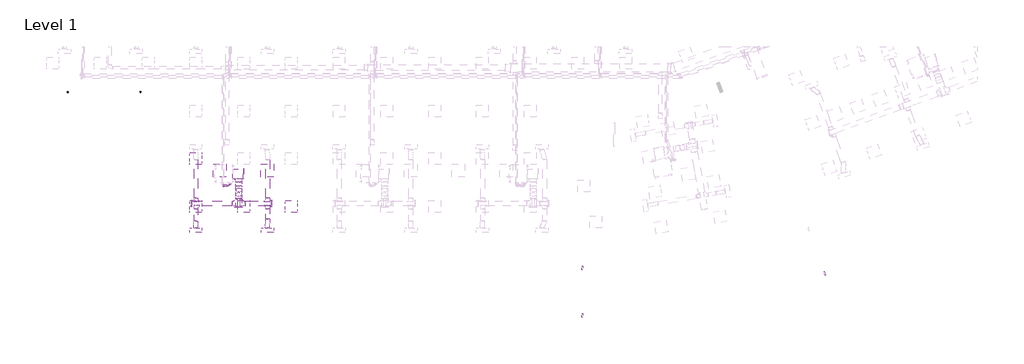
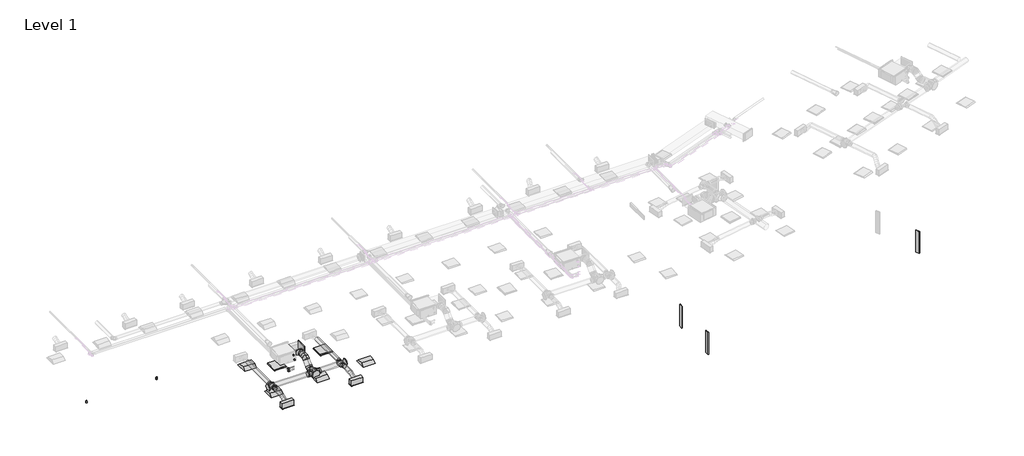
# One storey, part 1 of 30: 13 duct fittings, 12 duct segments, 7 light fixtures, 4 air terminals, 4 pipe fittings, 4 pipe segments, 2 proxies.
"""IFC4 building model written with IfcOpenShell, lengths in millimetres."""

from ifc_helpers import new_model, si_unit, point, frame, frame_2d, origin, place, context, project, spatial, polyline, circle_curve, ellipse_curve, trimmed, segment, composite_curve, outline, extrude, transform, mapped, element, save
from ifc_brep_helpers import plane_surface, cylinder_surface, advanced_brep
from components import return_grille_rectangular_hosted_standard_7b12617c, supply_diffuser_with_plenum_linear_slot_hosted_2b730595, duplex_receptacle_standard_367a9a66, dw144_rectangular_blank_end_standard_8fde7d16, dw144_round_blank_end_standard_f82b0856, dw144_round_blank_end_standard_9aa061e7, dw144_round_segmented_bend_slip_joint_standard_8b80c5ae, dw144_round_shoe_branch_slip_joint1_standard_2_15a2edd8, dw144_round_shoe_branch_slip_joint1_standard_2_559552f4, dw144_round_shoe_branch_slip_joint1_standard_2_7ba9e4ed, dw144_round_shoe_branch_slip_joint1_standard_2_67b64720, plain_recessed_lighting_fixture_2x2_277_de26a1e5, light_fixture_64c2163c, elbow_threaded_gmi_standard_b4aa7741, socket_reducing_threaded_gmi_standard_0a4076b8

model = new_model("IFC4")

# Units and contexts
model_context = context("Model", 3, world=origin())
ifc_project = project(units=[si_unit("LENGTHUNIT", "METRE", prefix="MILLI")], contexts=[model_context])

# Site, building, storey
site = spatial("IfcSite", under=ifc_project)
building = spatial("IfcBuilding", under=site)
storey = spatial("IfcBuildingStorey", under=building, Name="Level 1", Elevation=3900.0)

# Air terminals
placement = place(None, origin())
return_grille_rectangular_hosted_standard_shape = return_grille_rectangular_hosted_standard_7b12617c(model_context)
element("IfcAirTerminal", 1, ObjectType="Return Grille - Rectangular - Hosted : Standard", at=placement, inside=storey, context=model_context, shape_type="MappedRepresentation", body=[
    mapped(return_grille_rectangular_hosted_standard_shape, transform((10362.2000027, 3963.2000004, 6700.0), x_axis=(1.0, 0.0, 0.0), y_axis=(0.0, -1.0, 0.0), z_axis=(0.0, 0.0, -1.0))),
])
element("IfcAirTerminal", 2, ObjectType="Return Grille - Rectangular - Hosted : Standard", at=placement, inside=storey, context=model_context, shape_type="MappedRepresentation", body=[
    mapped(return_grille_rectangular_hosted_standard_shape, transform((12762.2000027, 3963.2000004, 6700.0), x_axis=(1.0, 0.0, 0.0), y_axis=(0.0, -1.0, 0.0), z_axis=(0.0, 0.0, -1.0))),
])
supply_diffuser_with_plenum_linear_slot_hosted_shape = supply_diffuser_with_plenum_linear_slot_hosted_2b730595(model_context)
element("IfcAirTerminal", 3, ObjectType="Supply Diffuser with Plenum - Linear Slot - Hosted : 24\" x 8\"-200 In Inlet  4-Slot", at=placement, inside=storey, context=model_context, shape_type="MappedRepresentation", body=[
    mapped(supply_diffuser_with_plenum_linear_slot_hosted_shape, transform((9162.2000027, 963.2000004, 6700.0), x_axis=(1.0, 0.0, 0.0), y_axis=(0.0, -1.0, 0.0), z_axis=(0.0, 0.0, -1.0))),
])
element("IfcAirTerminal", 4, ObjectType="Supply Diffuser with Plenum - Linear Slot - Hosted : 24\" x 8\"-200 In Inlet  4-Slot", at=placement, inside=storey, context=model_context, shape_type="MappedRepresentation", body=[
    mapped(supply_diffuser_with_plenum_linear_slot_hosted_shape, transform((12762.2000027, 963.2000004, 6700.0), x_axis=(1.0, 0.0, 0.0), y_axis=(0.0, -1.0, 0.0), z_axis=(0.0, 0.0, -1.0))),
])

# Proxies
duplex_receptacle_standard_shape = duplex_receptacle_standard_367a9a66(model_context)
element("IfcBuildingElementProxy", 5, Name="Duplex Receptacle : Standard", ObjectType="Duplex Receptacle : Standard", at=placement, inside=storey, context=model_context, shape_type="MappedRepresentation", body=[
    mapped(duplex_receptacle_standard_shape, transform((6385.8000023, 7938.2000004, 4966.8), x_axis=(-1.0, 0.0, 0.0), y_axis=(0.0, 0.0, 1.0), z_axis=(0.0, 1.0, 0.0))),
])
element("IfcBuildingElementProxy", 6, Name="Duplex Receptacle : Standard", ObjectType="Duplex Receptacle : Standard", at=placement, inside=storey, context=model_context, shape_type="MappedRepresentation", body=[
    mapped(duplex_receptacle_standard_shape, transform((2728.2000023, 7938.2000004, 4966.8), x_axis=(-1.0, 0.0, 0.0), y_axis=(0.0, 0.0, 1.0), z_axis=(0.0, 1.0, 0.0))),
])

# Duct fittings
dw144_rectangular_blank_end_standard_shape = dw144_rectangular_blank_end_standard_8fde7d16(model_context)
element("IfcDuctFitting", 7, ObjectType="DW144 Rectangular Blank End : Standard", at=placement, inside=storey, context=model_context, shape_type="MappedRepresentation", body=[
    mapped(dw144_rectangular_blank_end_standard_shape, transform((11546.2561025, 3806.0000004, 7376.3911538), x_axis=(1.0, 0.0, 0.0), y_axis=(0.0, 1.0, 0.0), z_axis=(0.0, 0.0, 1.0))),
])
dw144_round_blank_end_standard_shape = dw144_round_blank_end_standard_f82b0856(model_context)
element("IfcDuctFitting", 8, ObjectType="DW144 Round Blank End : Standard", at=placement, inside=storey, context=model_context, shape_type="MappedRepresentation", body=[
    mapped(dw144_round_blank_end_standard_shape, transform((11331.4561025, 2142.9916128, 6972.2088531), x_axis=(0.0, -1.0, 0.0), y_axis=(1.0, 0.0, 0.0), z_axis=(0.0, 0.0, 1.0))),
])
dw144_round_blank_end_standard_2_shape = dw144_round_blank_end_standard_9aa061e7(model_context)
element("IfcDuctFitting", 9, ObjectType="DW144 Round Blank End : Standard", at=placement, inside=storey, context=model_context, shape_type="MappedRepresentation", body=[
    mapped(dw144_round_blank_end_standard_2_shape, transform((12961.4561025, 2306.5018192, 6972.2088531), x_axis=(1.0, 0.0, 0.0), y_axis=(0.0, 1.0, 0.0), z_axis=(0.0, 0.0, 1.0))),
])
element("IfcDuctFitting", 10, ObjectType="DW144 Round Blank End : Standard", at=placement, inside=storey, context=model_context, shape_type="MappedRepresentation", body=[
    mapped(dw144_round_blank_end_standard_2_shape, transform((8961.4561025, 2306.5018192, 6972.2088531), x_axis=(-1.0, 0.0, 0.0), y_axis=(0.0, -1.0, 0.0), z_axis=(0.0, 0.0, 1.0))),
])
dw144_round_segmented_bend_slip_joint_standard_shape = dw144_round_segmented_bend_slip_joint_standard_8b80c5ae(model_context)
element("IfcDuctFitting", 11, ObjectType="DW144 Round Segmented Bend - Slip Joint : Standard", at=placement, inside=storey, context=model_context, shape_type="MappedRepresentation", body=[
    mapped(dw144_round_segmented_bend_slip_joint_standard_shape, transform((11331.4561025, 2678.6338536, 6972.2088531), x_axis=(0.0, -0.7071067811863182, -0.7071067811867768), y_axis=(0.0, 0.7071067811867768, -0.7071067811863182), z_axis=(1.0, 0.0, 0.0))),
])
element("IfcDuctFitting", 12, ObjectType="DW144 Round Segmented Bend - Slip Joint : Standard", at=placement, inside=storey, context=model_context, shape_type="MappedRepresentation", body=[
    mapped(dw144_round_segmented_bend_slip_joint_standard_shape, transform((11331.4561025, 3076.0000004, 7369.575), x_axis=(0.0, -1.0, 0.0), y_axis=(0.0, 0.0, 1.0), z_axis=(-1.0, 0.0, 0.0))),
])
dw144_round_shoe_branch_slip_joint1_standard_2_shape = dw144_round_shoe_branch_slip_joint1_standard_2_15a2edd8(model_context)
element("IfcDuctFitting", 13, ObjectType="DW144 Round Shoe Branch - Slip Joint1 : Standard 2", at=placement, inside=storey, context=model_context, shape_type="MappedRepresentation", body=[
    mapped(dw144_round_shoe_branch_slip_joint1_standard_2_shape, transform((9173.9000022, 2181.5018192, 6972.2088531), x_axis=(0.0, -1.0, 0.0), y_axis=(-1.0, 0.0, 0.0), z_axis=(0.0, 0.0, -1.0))),
])
element("IfcDuctFitting", 14, ObjectType="DW144 Round Shoe Branch - Slip Joint1 : Standard 2", at=placement, inside=storey, context=model_context, shape_type="MappedRepresentation", body=[
    mapped(dw144_round_shoe_branch_slip_joint1_standard_2_shape, transform((9173.9000022, 2431.5018192, 6972.2088531), x_axis=(0.0, 1.0, 0.0), y_axis=(-1.0, 0.0, 0.0), z_axis=(0.0, 0.0, 1.0))),
])
dw144_round_shoe_branch_slip_joint1_standard_2_2_shape = dw144_round_shoe_branch_slip_joint1_standard_2_559552f4(model_context)
element("IfcDuctFitting", 15, ObjectType="DW144 Round Shoe Branch - Slip Joint1 : Standard 2", at=placement, inside=storey, context=model_context, shape_type="MappedRepresentation", body=[
    mapped(dw144_round_shoe_branch_slip_joint1_standard_2_2_shape, transform((12773.9000022, 2181.5018192, 6972.2088531), x_axis=(0.0, -1.0, 0.0), y_axis=(-1.0, 0.0, 0.0), z_axis=(0.0, 0.0, -1.0))),
])
element("IfcDuctFitting", 16, ObjectType="DW144 Round Shoe Branch - Slip Joint1 : Standard 2", at=placement, inside=storey, context=model_context, shape_type="MappedRepresentation", body=[
    mapped(dw144_round_shoe_branch_slip_joint1_standard_2_2_shape, transform((12773.9000022, 2431.5018192, 6972.2088531), x_axis=(0.0, 1.0, 0.0), y_axis=(-1.0, 0.0, 0.0), z_axis=(0.0, 0.0, 1.0))),
])
dw144_round_shoe_branch_slip_joint1_standard_2_3_shape = dw144_round_shoe_branch_slip_joint1_standard_2_7ba9e4ed(model_context)
element("IfcDuctFitting", 17, ObjectType="DW144 Round Shoe Branch - Slip Joint1 : Standard 2", at=placement, inside=storey, context=model_context, shape_type="MappedRepresentation", body=[
    mapped(dw144_round_shoe_branch_slip_joint1_standard_2_3_shape, transform((11331.4561025, 3556.0000004, 7369.575), x_axis=(0.0, -1.0, 0.0), y_axis=(-1.0, 0.0, 0.0), z_axis=(0.0, 0.0, -1.0))),
])
dw144_round_shoe_branch_slip_joint1_standard_2_4_shape = dw144_round_shoe_branch_slip_joint1_standard_2_67b64720(model_context)
element("IfcDuctFitting", 18, ObjectType="DW144 Round Shoe Branch - Slip Joint1 : Standard 2", at=placement, inside=storey, context=model_context, shape_type="MappedRepresentation", body=[
    mapped(dw144_round_shoe_branch_slip_joint1_standard_2_4_shape, transform((11481.4561025, 2306.5018192, 6972.2088531), x_axis=(1.0, 0.0, 0.0), y_axis=(0.0, -1.0, 0.0), z_axis=(0.0, 0.0, -1.0))),
])
element("IfcDuctFitting", 19, ObjectType="DW144 Round Shoe Branch - Slip Joint1 : Standard 2", at=placement, inside=storey, context=model_context, shape_type="MappedRepresentation", body=[
    mapped(dw144_round_shoe_branch_slip_joint1_standard_2_4_shape, transform((11181.4561025, 2306.5018192, 6972.2088531), x_axis=(-1.0, 0.0, 0.0), y_axis=(0.0, -1.0, 0.0), z_axis=(0.0, 0.0, 1.0))),
])

# Duct segments
element("IfcDuctSegment", 20, ObjectType="DW144 Flanged Med Radius Bend / Shoe Branch", at=placement, inside=storey, context=model_context, shape_type="SweptSolid", body=[
    extrude(outline(polyline([(11026.6561025, 3556.0000004), (11026.6561025, 4056.0000004), (11546.2561025, 4056.0000004), (11546.2561025, 3556.0000004), (11026.6561025, 3556.0000004)])), frame((0.0, 0.0, 7201.3911538), z_axis=(0.0, 0.0, 1.0), x_axis=(1.0, 0.0, 0.0)), (0.0, 0.0, 1.0), 350.0),
])
element("IfcDuctSegment", 21, ObjectType="DW144 Segmented Bend / Shoe Branch", at=placement, inside=storey, context=model_context, shape_type="SweptSolid", body=[
    extrude(outline(composite_curve([segment(trimmed(circle_curve(frame_2d((7369.575, 11331.4561025)), 150.0), [point((7369.575, 11181.4561025))], [point((7219.575, 11331.4561025))], False, "CARTESIAN"), True, "CONTINUOUS"), segment(trimmed(circle_curve(frame_2d((7369.575, 11331.4561025)), 150.0), [point((7219.575, 11331.4561025))], [point((7369.575, 11481.4561025))], False, "CARTESIAN"), True, "CONTINUOUS"), segment(trimmed(circle_curve(frame_2d((7369.575, 11331.4561025)), 150.0), [point((7369.575, 11481.4561025))], [point((7519.575, 11331.4561025))], False, "CARTESIAN"), True, "CONTINUOUS"), segment(trimmed(circle_curve(frame_2d((7369.575, 11331.4561025)), 150.0), [point((7519.575, 11331.4561025))], [point((7369.575, 11181.4561025))], False, "CARTESIAN"), True, "CONTINUOUS")], self_intersect=False)), frame((0.0, 3200.2640691, 0.0), z_axis=(0.0, 1.0, 0.0), x_axis=(0.0, 0.0, 1.0)), (0.0, 0.0, 1.0), 180.7359313),
])
element("IfcDuctSegment", 22, ObjectType="DW144 Segmented Bend / Shoe Branch", at=placement, inside=storey, context=model_context, shape_type="SweptSolid", body=[
    extrude(outline(composite_curve([segment(trimmed(circle_curve(frame_2d((6972.2088531, 11331.4561025)), 150.0), [point((6972.2088531, 11181.4561025))], [point((6822.2088531, 11331.4561025))], False, "CARTESIAN"), True, "CONTINUOUS"), segment(trimmed(circle_curve(frame_2d((6972.2088531, 11331.4561025)), 150.0), [point((6822.2088531, 11331.4561025))], [point((6972.2088531, 11481.4561025))], False, "CARTESIAN"), True, "CONTINUOUS"), segment(trimmed(circle_curve(frame_2d((6972.2088531, 11331.4561025)), 150.0), [point((6972.2088531, 11481.4561025))], [point((7122.2088531, 11331.4561025))], False, "CARTESIAN"), True, "CONTINUOUS"), segment(trimmed(circle_curve(frame_2d((6972.2088531, 11331.4561025)), 150.0), [point((7122.2088531, 11331.4561025))], [point((6972.2088531, 11181.4561025))], False, "CARTESIAN"), True, "CONTINUOUS")], self_intersect=False)), frame((0.0, 2142.9916128, 0.0), z_axis=(0.0, 1.0, 0.0), x_axis=(0.0, 0.0, 1.0)), (0.0, 0.0, 1.0), 411.3781721),
])
element("IfcDuctSegment", 23, ObjectType="DW144 Segmented Bend / Shoe Branch", at=placement, inside=storey, context=model_context, shape_type="SweptSolid", body=[
    extrude(outline(composite_curve([segment(trimmed(circle_curve(frame_2d((0.0, -150.0)), 150.0), [point((-150.0, -150.0))], [point((0.0, 0.0))], False, "CARTESIAN"), True, "CONTINUOUS"), segment(trimmed(circle_curve(frame_2d((0.0, -150.0)), 150.0), [point((0.0, 0.0))], [point((150.0, -150.0))], False, "CARTESIAN"), True, "CONTINUOUS"), segment(trimmed(circle_curve(frame_2d((0.0, -150.0)), 150.0), [point((150.0, -150.0))], [point((0.0, -300.0))], False, "CARTESIAN"), True, "CONTINUOUS"), segment(trimmed(circle_curve(frame_2d((0.0, -150.0)), 150.0), [point((0.0, -300.0))], [point((-150.0, -150.0))], False, "CARTESIAN"), True, "CONTINUOUS")], self_intersect=False)), frame((11331.4561025, 2872.5678364, 6954.0108016), z_axis=(0.0, 0.7071067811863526, 0.7071067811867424), x_axis=(1.0, 0.0, 0.0)), (0.0, 0.0, 1.0), 313.4324567),
])
element("IfcDuctSegment", 24, ObjectType="DW144 Segmented Bend / Shoe Branch", at=placement, inside=storey, context=model_context, shape_type="SweptSolid", body=[
    extrude(outline(composite_curve([segment(trimmed(circle_curve(frame_2d((2306.5018192, 6972.2088531)), 125.0), [point((2181.5018192, 6972.2088531))], [point((2306.5018192, 7097.2088531))], False, "CARTESIAN"), True, "CONTINUOUS"), segment(trimmed(circle_curve(frame_2d((2306.5018192, 6972.2088531)), 125.0), [point((2306.5018192, 7097.2088531))], [point((2431.5018192, 6972.2088531))], False, "CARTESIAN"), True, "CONTINUOUS"), segment(trimmed(circle_curve(frame_2d((2306.5018192, 6972.2088531)), 125.0), [point((2431.5018192, 6972.2088531))], [point((2306.5018192, 6847.2088531))], False, "CARTESIAN"), True, "CONTINUOUS"), segment(trimmed(circle_curve(frame_2d((2306.5018192, 6972.2088531)), 125.0), [point((2306.5018192, 6847.2088531))], [point((2181.5018192, 6972.2088531))], False, "CARTESIAN"), True, "CONTINUOUS")], self_intersect=False)), frame((11656.4561025, 0.0, 0.0), z_axis=(1.0, 0.0, 0.0), x_axis=(0.0, 1.0, 0.0)), (0.0, 0.0, 1.0), 1305.0),
])
element("IfcDuctSegment", 25, ObjectType="DW144 Segmented Bend / Shoe Branch", at=placement, inside=storey, context=model_context, shape_type="SweptSolid", body=[
    extrude(outline(composite_curve([segment(trimmed(circle_curve(frame_2d((2306.5018192, 6972.2088531)), 125.0), [point((2431.5018192, 6972.2088531))], [point((2306.5018192, 6847.2088531))], False, "CARTESIAN"), True, "CONTINUOUS"), segment(trimmed(circle_curve(frame_2d((2306.5018192, 6972.2088531)), 125.0), [point((2306.5018192, 6847.2088531))], [point((2181.5018192, 6972.2088531))], False, "CARTESIAN"), True, "CONTINUOUS"), segment(trimmed(circle_curve(frame_2d((2306.5018192, 6972.2088531)), 125.0), [point((2181.5018192, 6972.2088531))], [point((2306.5018192, 7097.2088531))], False, "CARTESIAN"), True, "CONTINUOUS"), segment(trimmed(circle_curve(frame_2d((2306.5018192, 6972.2088531)), 125.0), [point((2306.5018192, 7097.2088531))], [point((2431.5018192, 6972.2088531))], False, "CARTESIAN"), True, "CONTINUOUS")], self_intersect=False)), frame((8961.4561025, 0.0, 0.0), z_axis=(1.0, 0.0, 0.0), x_axis=(0.0, 1.0, 0.0)), (0.0, 0.0, 1.0), 2045.0),
])
element("IfcDuctSegment", 26, ObjectType="DW144 Segmented Bend / Shoe Branch", at=placement, inside=storey, context=model_context, shape_type="SweptSolid", body=[
    extrude(outline(composite_curve([segment(trimmed(circle_curve(frame_2d((6972.2088531, 12773.9000022)), 100.0), [point((6972.2088531, 12673.9000022))], [point((6872.2088531, 12773.9000022))], False, "CARTESIAN"), True, "CONTINUOUS"), segment(trimmed(circle_curve(frame_2d((6972.2088531, 12773.9000022)), 100.0), [point((6872.2088531, 12773.9000022))], [point((6972.2088531, 12873.9000022))], False, "CARTESIAN"), True, "CONTINUOUS"), segment(trimmed(circle_curve(frame_2d((6972.2088531, 12773.9000022)), 100.0), [point((6972.2088531, 12873.9000022))], [point((7072.2088531, 12773.9000022))], False, "CARTESIAN"), True, "CONTINUOUS"), segment(trimmed(circle_curve(frame_2d((6972.2088531, 12773.9000022)), 100.0), [point((7072.2088531, 12773.9000022))], [point((6972.2088531, 12673.9000022))], False, "CARTESIAN"), True, "CONTINUOUS")], self_intersect=False)), frame((0.0, 1521.5018192, 0.0), z_axis=(0.0, 1.0, 0.0), x_axis=(0.0, 0.0, 1.0)), (0.0, 0.0, 1.0), 510.0),
])
element("IfcDuctSegment", 27, ObjectType="DW144 Segmented Bend / Shoe Branch", at=placement, inside=storey, context=model_context, shape_type="SweptSolid", body=[
    extrude(outline(composite_curve([segment(trimmed(circle_curve(frame_2d((6972.2088531, 12773.9000022)), 100.0), [point((6972.2088531, 12873.9000022))], [point((7072.2088531, 12773.9000022))], False, "CARTESIAN"), True, "CONTINUOUS"), segment(trimmed(circle_curve(frame_2d((6972.2088531, 12773.9000022)), 100.0), [point((7072.2088531, 12773.9000022))], [point((6972.2088531, 12673.9000022))], False, "CARTESIAN"), True, "CONTINUOUS"), segment(trimmed(circle_curve(frame_2d((6972.2088531, 12773.9000022)), 100.0), [point((6972.2088531, 12673.9000022))], [point((6872.2088531, 12773.9000022))], False, "CARTESIAN"), True, "CONTINUOUS"), segment(trimmed(circle_curve(frame_2d((6972.2088531, 12773.9000022)), 100.0), [point((6872.2088531, 12773.9000022))], [point((6972.2088531, 12873.9000022))], False, "CARTESIAN"), True, "CONTINUOUS")], self_intersect=False)), frame((0.0, 2581.5018192, 0.0), z_axis=(0.0, 1.0, 0.0), x_axis=(0.0, 0.0, 1.0)), (0.0, 0.0, 1.0), 1950.0),
])
element("IfcDuctSegment", 28, ObjectType="DW144 Segmented Bend / Shoe Branch", at=placement, inside=storey, context=model_context, shape_type="SweptSolid", body=[
    extrude(outline(composite_curve([segment(trimmed(circle_curve(frame_2d((6972.2088531, 9173.9000022)), 100.0), [point((6972.2088531, 9273.9000022))], [point((7072.2088531, 9173.9000022))], False, "CARTESIAN"), True, "CONTINUOUS"), segment(trimmed(circle_curve(frame_2d((6972.2088531, 9173.9000022)), 100.0), [point((7072.2088531, 9173.9000022))], [point((6972.2088531, 9073.9000022))], False, "CARTESIAN"), True, "CONTINUOUS"), segment(trimmed(circle_curve(frame_2d((6972.2088531, 9173.9000022)), 100.0), [point((6972.2088531, 9073.9000022))], [point((6872.2088531, 9173.9000022))], False, "CARTESIAN"), True, "CONTINUOUS"), segment(trimmed(circle_curve(frame_2d((6972.2088531, 9173.9000022)), 100.0), [point((6872.2088531, 9173.9000022))], [point((6972.2088531, 9273.9000022))], False, "CARTESIAN"), True, "CONTINUOUS")], self_intersect=False)), frame((0.0, 1441.5018192, 0.0), z_axis=(0.0, 1.0, 0.0), x_axis=(0.0, 0.0, 1.0)), (0.0, 0.0, 1.0), 590.0),
])
element("IfcDuctSegment", 29, ObjectType="DW144 Segmented Bend / Shoe Branch", at=placement, inside=storey, context=model_context, shape_type="SweptSolid", body=[
    extrude(outline(composite_curve([segment(trimmed(circle_curve(frame_2d((6972.2088531, 9173.9000022)), 100.0), [point((6972.2088531, 9273.9000022))], [point((7072.2088531, 9173.9000022))], False, "CARTESIAN"), True, "CONTINUOUS"), segment(trimmed(circle_curve(frame_2d((6972.2088531, 9173.9000022)), 100.0), [point((7072.2088531, 9173.9000022))], [point((6972.2088531, 9073.9000022))], False, "CARTESIAN"), True, "CONTINUOUS"), segment(trimmed(circle_curve(frame_2d((6972.2088531, 9173.9000022)), 100.0), [point((6972.2088531, 9073.9000022))], [point((6872.2088531, 9173.9000022))], False, "CARTESIAN"), True, "CONTINUOUS"), segment(trimmed(circle_curve(frame_2d((6972.2088531, 9173.9000022)), 100.0), [point((6872.2088531, 9173.9000022))], [point((6972.2088531, 9273.9000022))], False, "CARTESIAN"), True, "CONTINUOUS")], self_intersect=False)), frame((0.0, 2581.5018192, 0.0), z_axis=(0.0, 1.0, 0.0), x_axis=(0.0, 0.0, 1.0)), (0.0, 0.0, 1.0), 1950.0),
])
element("IfcDuctSegment", 30, ObjectType="Flex - Round", at=placement, inside=storey, context=model_context, shape_type="AdvancedBrep", body=[
    advanced_brep(
    [(9273.9000022, 1441.5018192, 6972.2088531), (9173.9000022, 1441.5018192, 6872.2088531), (9073.9000022, 1441.5018192, 6972.2088531), (9173.9000022, 1441.5018192, 7072.2088531), (9273.9000022, 1420.0995917, 6972.2088531), (9173.9000022, 1434.401614, 6872.2088531), (9073.9000022, 1422.6837186, 6972.2088531), (9173.9000022, 1408.3816962, 7072.2088531), (9262.2000027, 1090.2000004, 6854.4), (9162.2000027, 1090.2000004, 6954.4), (9062.2000027, 1090.2000004, 6854.4), (9162.2000027, 1090.2000004, 6754.4), (9272.0161428, 1348.4444846, 6953.2400219), (9172.6330752, 1386.2123534, 6859.4519962), (9072.1276118, 1355.2684822, 6954.3624177), (9171.5106794, 1317.5006134, 7048.1504435), (9267.9561574, 1261.6239384, 6912.3594887), (9168.9949403, 1308.4128474, 6822.8191318), (9068.1438475, 1270.0778812, 6914.2493644), (9167.1050646, 1223.2889723, 7003.7897213), (9263.9723931, 1176.4333374, 6872.2464354), (9164.5893255, 1214.2012062, 6778.4584097), (9064.0838621, 1183.257335, 6873.3688312), (9163.4669297, 1145.4894662, 6967.1568569), (9262.2000027, 1109.0181011, 6854.4), (9162.2000027, 1123.3201234, 6754.4), (9062.2000027, 1111.602228, 6854.4), (9162.2000027, 1097.3002057, 6954.4)],
    [
        (0, 1, circle_curve(frame((9173.9000022, 1441.5018192, 6972.2088531), z_axis=(0.0, 1.0, 0.0), x_axis=(1.0, 0.0, 0.0)), 100.0)),
        (1, 2, circle_curve(frame((9173.9000022, 1441.5018192, 6972.2088531), z_axis=(0.0, 1.0, 0.0), x_axis=(1.0, 0.0, 0.0)), 100.0)),
        (2, 3, circle_curve(frame((9173.9000022, 1441.5018192, 6972.2088531), z_axis=(0.0, 1.0, 0.0), x_axis=(1.0, 0.0, 0.0)), 100.0)),
        (3, 0, circle_curve(frame((9173.9000022, 1441.5018192, 6972.2088531), z_axis=(0.0, 1.0, 0.0), x_axis=(1.0, 0.0, 0.0)), 100.0)),
        (0, 4),
        (4, 5, ellipse_curve(frame((9173.9000022, 1421.3916551, 6972.2088531), z_axis=(0.012811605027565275, 0.9915616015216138, 0.1290017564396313), x_axis=(-0.09799329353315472, 0.12963637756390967, -0.9867075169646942)), 100.8510211, 100.0)),
        (5, 1),
        (5, 6, ellipse_curve(frame((9173.9000022, 1421.3916551, 6972.2088531), z_axis=(0.012811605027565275, 0.9915616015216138, 0.1290017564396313), x_axis=(-0.09799329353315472, 0.12963637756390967, -0.9867075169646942)), 100.8510211, 100.0)),
        (6, 2),
        (6, 7, ellipse_curve(frame((9173.9000022, 1421.3916551, 6972.2088531), z_axis=(0.012811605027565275, 0.9915616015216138, 0.1290017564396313), x_axis=(-0.09799329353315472, 0.12963637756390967, -0.9867075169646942)), 100.8510211, 100.0)),
        (7, 3),
        (7, 4, ellipse_curve(frame((9173.9000022, 1421.3916551, 6972.2088531), z_axis=(0.012811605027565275, 0.9915616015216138, 0.1290017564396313), x_axis=(-0.09799329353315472, 0.12963637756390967, -0.9867075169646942)), 100.8510211, 100.0)),
        (8, 9, circle_curve(frame((9162.2000027, 1090.2000004, 6854.4), z_axis=(0.0, -1.0, 0.0), x_axis=(1.0, 0.0, 0.0)), 100.0)),
        (9, 10, circle_curve(frame((9162.2000027, 1090.2000004, 6854.4), z_axis=(0.0, -1.0, 0.0), x_axis=(1.0, 0.0, 0.0)), 100.0)),
        (10, 11, circle_curve(frame((9162.2000027, 1090.2000004, 6854.4), z_axis=(0.0, -1.0, 0.0), x_axis=(1.0, 0.0, 0.0)), 100.0)),
        (11, 8, circle_curve(frame((9162.2000027, 1090.2000004, 6854.4), z_axis=(0.0, -1.0, 0.0), x_axis=(1.0, 0.0, 0.0)), 100.0)),
        (4, 12),
        (12, 13, ellipse_curve(frame((9172.0718773, 1351.8564834, 6953.8012198), z_axis=(0.03397887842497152, 0.9390352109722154, 0.3421378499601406), x_axis=(-0.09280225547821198, 0.3438209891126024, -0.9344382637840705)), 100.4152859, 100.0)),
        (13, 5),
        (13, 14, ellipse_curve(frame((9172.0718773, 1351.8564834, 6953.8012198), z_axis=(0.03397887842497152, 0.9390352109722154, 0.3421378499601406), x_axis=(-0.09280225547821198, 0.3438209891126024, -0.9344382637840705)), 100.4152859, 100.0)),
        (14, 6),
        (14, 15, ellipse_curve(frame((9172.0718773, 1351.8564834, 6953.8012198), z_axis=(0.03397887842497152, 0.9390352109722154, 0.3421378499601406), x_axis=(-0.09280225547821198, 0.3438209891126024, -0.9344382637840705)), 100.4152859, 100.0)),
        (15, 7),
        (15, 12, ellipse_curve(frame((9172.0718773, 1351.8564834, 6953.8012198), z_axis=(0.03397887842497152, 0.9390352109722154, 0.3421378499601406), x_axis=(-0.09280225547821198, 0.3438209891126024, -0.9344382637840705)), 100.4152859, 100.0)),
        (12, 16),
        (16, 17, circle_curve(frame((9168.0500024, 1265.8509098, 6913.3044266), z_axis=(0.04226971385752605, 0.9039144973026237, 0.42561937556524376), x_axis=(0.9990615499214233, -0.04226971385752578, -0.009449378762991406)), 100.0)),
        (17, 13),
        (17, 18, circle_curve(frame((9168.0500024, 1265.8509098, 6913.3044266), z_axis=(0.04226971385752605, 0.9039144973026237, 0.42561937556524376), x_axis=(0.9990615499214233, -0.04226971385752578, -0.009449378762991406)), 100.0)),
        (18, 14),
        (18, 19, circle_curve(frame((9168.0500024, 1265.8509098, 6913.3044266), z_axis=(0.04226971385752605, 0.9039144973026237, 0.42561937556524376), x_axis=(0.9990615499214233, -0.04226971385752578, -0.009449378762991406)), 100.0)),
        (19, 15),
        (19, 16, circle_curve(frame((9168.0500024, 1265.8509098, 6913.3044266), z_axis=(0.04226971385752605, 0.9039144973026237, 0.42561937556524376), x_axis=(0.9990615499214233, -0.04226971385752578, -0.009449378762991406)), 100.0)),
        (16, 20),
        (20, 21, ellipse_curve(frame((9164.0281276, 1179.8453362, 6872.8076333), z_axis=(0.033978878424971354, 0.9390352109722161, 0.3421378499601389), x_axis=(0.0928022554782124, -0.343820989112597, 0.9344382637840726)), 100.4152859, 100.0)),
        (21, 17),
        (21, 22, ellipse_curve(frame((9164.0281276, 1179.8453362, 6872.8076333), z_axis=(0.033978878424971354, 0.9390352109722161, 0.3421378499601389), x_axis=(0.0928022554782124, -0.343820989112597, 0.9344382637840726)), 100.4152859, 100.0)),
        (22, 18),
        (22, 23, ellipse_curve(frame((9164.0281276, 1179.8453362, 6872.8076333), z_axis=(0.033978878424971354, 0.9390352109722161, 0.3421378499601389), x_axis=(0.0928022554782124, -0.343820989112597, 0.9344382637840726)), 100.4152859, 100.0)),
        (23, 19),
        (23, 20, ellipse_curve(frame((9164.0281276, 1179.8453362, 6872.8076333), z_axis=(0.033978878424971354, 0.9390352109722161, 0.3421378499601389), x_axis=(0.0928022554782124, -0.343820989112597, 0.9344382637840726)), 100.4152859, 100.0)),
        (20, 24),
        (24, 25, ellipse_curve(frame((9162.2000027, 1110.3101645, 6854.4), z_axis=(0.012811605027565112, 0.991561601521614, 0.12900175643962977), x_axis=(0.09799329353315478, -0.12963637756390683, 0.9867075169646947)), 100.8510211, 100.0)),
        (25, 21),
        (25, 26, ellipse_curve(frame((9162.2000027, 1110.3101645, 6854.4), z_axis=(0.012811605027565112, 0.991561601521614, 0.12900175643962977), x_axis=(0.09799329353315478, -0.12963637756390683, 0.9867075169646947)), 100.8510211, 100.0)),
        (26, 22),
        (26, 27, ellipse_curve(frame((9162.2000027, 1110.3101645, 6854.4), z_axis=(0.012811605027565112, 0.991561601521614, 0.12900175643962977), x_axis=(0.09799329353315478, -0.12963637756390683, 0.9867075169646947)), 100.8510211, 100.0)),
        (27, 23),
        (27, 24, ellipse_curve(frame((9162.2000027, 1110.3101645, 6854.4), z_axis=(0.012811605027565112, 0.991561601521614, 0.12900175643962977), x_axis=(0.09799329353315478, -0.12963637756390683, 0.9867075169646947)), 100.8510211, 100.0)),
        (24, 8),
        (11, 25),
        (10, 26),
        (9, 27),
    ],
    [
        plane_surface(frame((9073.9000022, 1441.5018192, 6972.2088531), z_axis=(0.0, 1.0, 0.0), x_axis=(0.0, 0.0, -1.0))),
        cylinder_surface(frame((9173.9000022, 1441.5018192, 6972.2088531), z_axis=(0.0, 1.0, 0.0), x_axis=(1.0, 0.0, 0.0)), 100.0),
        plane_surface(frame((9062.2000027, 1090.2000004, 6854.4), z_axis=(0.0, -1.0, 0.0), x_axis=(0.0, 0.0, -1.0))),
        cylinder_surface(frame((9173.9000022, 1421.3916551, 6972.2088531), z_axis=(0.025406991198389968, 0.9663888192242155, 0.255826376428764), x_axis=(0.9996717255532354, -0.025406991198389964, -0.003305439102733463)), 100.0),
        cylinder_surface(frame((9172.0718773, 1351.8564834, 6953.8012198), z_axis=(0.04226971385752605, 0.9039144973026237, 0.42561937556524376), x_axis=(0.9990615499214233, -0.04226971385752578, -0.009449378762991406)), 100.0),
        cylinder_surface(frame((9168.0500024, 1265.8509098, 6913.3044266), z_axis=(0.04226971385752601, 0.903914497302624, 0.42561937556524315), x_axis=(0.9990615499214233, -0.04226971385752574, -0.009449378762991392)), 100.0),
        cylinder_surface(frame((9164.0281276, 1179.8453362, 6872.8076333), z_axis=(0.025406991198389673, 0.9663888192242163, 0.2558263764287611), x_axis=(0.9996717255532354, -0.025406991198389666, -0.0033054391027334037)), 100.0),
        cylinder_surface(frame((9162.2000027, 1110.3101645, 6854.4), z_axis=(0.0, 1.0, 0.0), x_axis=(1.0, 0.0, 0.0)), 100.0),
    ],
    [
        (0, [[1, 2, 3, 4]]),
        (1, [[-1, 5, 6, 7]]),
        (1, [[-2, -7, 8, 9]]),
        (1, [[-3, -9, 10, 11]]),
        (1, [[-4, -11, 12, -5]]),
        (2, [[13, 14, 15, 16]]),
        (3, [[-6, 17, 18, 19]]),
        (3, [[-8, -19, 20, 21]]),
        (3, [[-10, -21, 22, 23]]),
        (3, [[-12, -23, 24, -17]]),
        (4, [[-18, 25, 26, 27]]),
        (4, [[-20, -27, 28, 29]]),
        (4, [[-22, -29, 30, 31]]),
        (4, [[-24, -31, 32, -25]]),
        (5, [[-26, 33, 34, 35]]),
        (5, [[-28, -35, 36, 37]]),
        (5, [[-30, -37, 38, 39]]),
        (5, [[-32, -39, 40, -33]]),
        (6, [[-34, 41, 42, 43]]),
        (6, [[-36, -43, 44, 45]]),
        (6, [[-38, -45, 46, 47]]),
        (6, [[-40, -47, 48, -41]]),
        (7, [[-42, 49, -16, 50]]),
        (7, [[-44, -50, -15, 51]]),
        (7, [[-46, -51, -14, 52]]),
        (7, [[-48, -52, -13, -49]]),
    ],
),
])
element("IfcDuctSegment", 31, ObjectType="Flex - Round", at=placement, inside=storey, context=model_context, shape_type="AdvancedBrep", body=[
    advanced_brep(
    [(12873.9000022, 1521.5018192, 6972.2088531), (12773.9000022, 1521.5018192, 6872.2088531), (12673.9000022, 1521.5018192, 6972.2088531), (12773.9000022, 1521.5018192, 7072.2088531), (12873.9000022, 1503.923456, 6972.2088531), (12773.9000022, 1514.7293967, 6872.2088531), (12673.9000022, 1505.8759017, 6972.2088531), (12773.9000022, 1495.069961, 7072.2088531), (12862.2000027, 1090.2000004, 6854.4), (12762.2000027, 1090.2000004, 6954.4), (12662.2000027, 1090.2000004, 6854.4), (12762.2000027, 1090.2000004, 6754.4), (12872.036853, 1409.4281644, 6953.4485558), (12772.4245413, 1439.896897, 6857.3522405), (12672.1069016, 1414.9333349, 6954.1538838), (12771.7192133, 1384.4646022, 7050.2501991), (12867.9854761, 1302.3183528, 6912.6547024), (12768.6997266, 1341.420697, 6819.8465853), (12668.1145288, 1309.3834669, 6913.9541507), (12767.4002783, 1270.2811227, 7006.7622679), (12863.9931033, 1196.7684848, 6872.4549693), (12764.3807916, 1227.2372174, 6776.358654), (12664.0631519, 1202.2736553, 6873.1602973), (12763.6754636, 1171.8049226, 6969.2566126), (12862.2000027, 1105.8259179, 6854.4), (12762.2000027, 1116.6318586, 6754.4), (12662.2000027, 1107.7783636, 6854.4), (12762.2000027, 1096.9724229, 6954.4)],
    [
        (0, 1, circle_curve(frame((12773.9000022, 1521.5018192, 6972.2088531), z_axis=(0.0, 1.0, 0.0), x_axis=(1.0, 0.0, 0.0)), 100.0)),
        (1, 2, circle_curve(frame((12773.9000022, 1521.5018192, 6972.2088531), z_axis=(0.0, 1.0, 0.0), x_axis=(1.0, 0.0, 0.0)), 100.0)),
        (2, 3, circle_curve(frame((12773.9000022, 1521.5018192, 6972.2088531), z_axis=(0.0, 1.0, 0.0), x_axis=(1.0, 0.0, 0.0)), 100.0)),
        (3, 0, circle_curve(frame((12773.9000022, 1521.5018192, 6972.2088531), z_axis=(0.0, 1.0, 0.0), x_axis=(1.0, 0.0, 0.0)), 100.0)),
        (0, 4),
        (4, 5, ellipse_curve(frame((12773.9000022, 1504.8996789, 6972.2088531), z_axis=(0.009714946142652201, 0.9951565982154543, 0.09782108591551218), x_axis=(-0.09834857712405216, 0.09830231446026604, -0.9902849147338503)), 100.4866974, 100.0)),
        (5, 1),
        (5, 6, ellipse_curve(frame((12773.9000022, 1504.8996789, 6972.2088531), z_axis=(0.009714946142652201, 0.9951565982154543, 0.09782108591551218), x_axis=(-0.09834857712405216, 0.09830231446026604, -0.9902849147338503)), 100.4866974, 100.0)),
        (6, 2),
        (6, 7, ellipse_curve(frame((12773.9000022, 1504.8996789, 6972.2088531), z_axis=(0.009714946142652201, 0.9951565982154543, 0.09782108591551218), x_axis=(-0.09834857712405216, 0.09830231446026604, -0.9902849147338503)), 100.4866974, 100.0)),
        (7, 3),
        (7, 4, ellipse_curve(frame((12773.9000022, 1504.8996789, 6972.2088531), z_axis=(0.009714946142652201, 0.9951565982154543, 0.09782108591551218), x_axis=(-0.09834857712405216, 0.09830231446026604, -0.9902849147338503)), 100.4866974, 100.0)),
        (8, 9, circle_curve(frame((12762.2000027, 1090.2000004, 6854.4), z_axis=(0.0, -1.0, 0.0), x_axis=(1.0, 0.0, 0.0)), 100.0)),
        (9, 10, circle_curve(frame((12762.2000027, 1090.2000004, 6854.4), z_axis=(0.0, -1.0, 0.0), x_axis=(1.0, 0.0, 0.0)), 100.0)),
        (10, 11, circle_curve(frame((12762.2000027, 1090.2000004, 6854.4), z_axis=(0.0, -1.0, 0.0), x_axis=(1.0, 0.0, 0.0)), 100.0)),
        (11, 8, circle_curve(frame((12762.2000027, 1090.2000004, 6854.4), z_axis=(0.0, -1.0, 0.0), x_axis=(1.0, 0.0, 0.0)), 100.0)),
        (4, 12),
        (12, 13, ellipse_curve(frame((12772.0718773, 1412.1807496, 6953.8012198), z_axis=(0.027428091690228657, 0.9607153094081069, 0.27617710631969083), x_axis=(-0.0949448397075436, 0.27753575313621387, -0.9560122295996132)), 100.3564262, 100.0)),
        (13, 5),
        (13, 14, ellipse_curve(frame((12772.0718773, 1412.1807496, 6953.8012198), z_axis=(0.027428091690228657, 0.9607153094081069, 0.27617710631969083), x_axis=(-0.0949448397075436, 0.27753575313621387, -0.9560122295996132)), 100.3564262, 100.0)),
        (14, 6),
        (14, 15, ellipse_curve(frame((12772.0718773, 1412.1807496, 6953.8012198), z_axis=(0.027428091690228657, 0.9607153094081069, 0.27617710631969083), x_axis=(-0.0949448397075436, 0.27753575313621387, -0.9560122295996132)), 100.3564262, 100.0)),
        (15, 7),
        (15, 12, ellipse_curve(frame((12772.0718773, 1412.1807496, 6953.8012198), z_axis=(0.027428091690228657, 0.9607153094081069, 0.27617710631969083), x_axis=(-0.0949448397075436, 0.27753575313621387, -0.9560122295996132)), 100.3564262, 100.0)),
        (12, 16),
        (16, 17, circle_curve(frame((12768.0500024, 1305.8509098, 6913.3044266), z_axis=(0.03532557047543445, 0.9339331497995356, 0.3556978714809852), x_axis=(0.9993547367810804, -0.035325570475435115, -0.006497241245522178)), 100.0)),
        (17, 13),
        (17, 18, circle_curve(frame((12768.0500024, 1305.8509098, 6913.3044266), z_axis=(0.03532557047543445, 0.9339331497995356, 0.3556978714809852), x_axis=(0.9993547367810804, -0.035325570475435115, -0.006497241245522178)), 100.0)),
        (18, 14),
        (18, 19, circle_curve(frame((12768.0500024, 1305.8509098, 6913.3044266), z_axis=(0.03532557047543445, 0.9339331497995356, 0.3556978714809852), x_axis=(0.9993547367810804, -0.035325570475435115, -0.006497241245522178)), 100.0)),
        (19, 15),
        (19, 16, circle_curve(frame((12768.0500024, 1305.8509098, 6913.3044266), z_axis=(0.03532557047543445, 0.9339331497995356, 0.3556978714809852), x_axis=(0.9993547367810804, -0.035325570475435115, -0.006497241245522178)), 100.0)),
        (16, 20),
        (20, 21, ellipse_curve(frame((12764.0281276, 1199.52107, 6872.8076333), z_axis=(0.027428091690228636, 0.9607153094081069, 0.2761771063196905), x_axis=(0.09494483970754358, -0.2775357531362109, 0.9560122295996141)), 100.3564262, 100.0)),
        (21, 17),
        (21, 22, ellipse_curve(frame((12764.0281276, 1199.52107, 6872.8076333), z_axis=(0.027428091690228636, 0.9607153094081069, 0.2761771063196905), x_axis=(0.09494483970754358, -0.2775357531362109, 0.9560122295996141)), 100.3564262, 100.0)),
        (22, 18),
        (22, 23, ellipse_curve(frame((12764.0281276, 1199.52107, 6872.8076333), z_axis=(0.027428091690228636, 0.9607153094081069, 0.2761771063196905), x_axis=(0.09494483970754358, -0.2775357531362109, 0.9560122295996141)), 100.3564262, 100.0)),
        (23, 19),
        (23, 20, ellipse_curve(frame((12764.0281276, 1199.52107, 6872.8076333), z_axis=(0.027428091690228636, 0.9607153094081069, 0.2761771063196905), x_axis=(0.09494483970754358, -0.2775357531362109, 0.9560122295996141)), 100.3564262, 100.0)),
        (20, 24),
        (24, 25, ellipse_curve(frame((12762.2000027, 1106.8021408, 6854.4), z_axis=(0.00971494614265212, 0.9951565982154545, 0.09782108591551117), x_axis=(0.0983485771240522, -0.09830231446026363, 0.9902849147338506)), 100.4866974, 100.0)),
        (25, 21),
        (25, 26, ellipse_curve(frame((12762.2000027, 1106.8021408, 6854.4), z_axis=(0.00971494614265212, 0.9951565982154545, 0.09782108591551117), x_axis=(0.0983485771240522, -0.09830231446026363, 0.9902849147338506)), 100.4866974, 100.0)),
        (26, 22),
        (26, 27, ellipse_curve(frame((12762.2000027, 1106.8021408, 6854.4), z_axis=(0.00971494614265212, 0.9951565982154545, 0.09782108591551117), x_axis=(0.0983485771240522, -0.09830231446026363, 0.9902849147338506)), 100.4866974, 100.0)),
        (27, 23),
        (27, 24, ellipse_curve(frame((12762.2000027, 1106.8021408, 6854.4), z_axis=(0.00971494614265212, 0.9951565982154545, 0.09782108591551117), x_axis=(0.0983485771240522, -0.09830231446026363, 0.9902849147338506)), 100.4866974, 100.0)),
        (24, 8),
        (11, 25),
        (10, 26),
        (9, 27),
    ],
    [
        plane_surface(frame((12673.9000022, 1521.5018192, 6972.2088531), z_axis=(0.0, 1.0, 0.0), x_axis=(0.0, 0.0, -1.0))),
        cylinder_surface(frame((12773.9000022, 1521.5018192, 6972.2088531), z_axis=(0.0, 1.0, 0.0), x_axis=(1.0, 0.0, 0.0)), 100.0),
        plane_surface(frame((12662.2000027, 1090.2000004, 6854.4), z_axis=(0.0, -1.0, 0.0), x_axis=(0.0, 0.0, -1.0))),
        cylinder_surface(frame((12773.9000022, 1504.8996789, 6972.2088531), z_axis=(0.019335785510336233, 0.9806733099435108, 0.19469459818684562), x_axis=(0.9998112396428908, -0.019335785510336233, -0.0019006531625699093)), 100.0),
        cylinder_surface(frame((12772.0718773, 1412.1807496, 6953.8012198), z_axis=(0.03532557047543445, 0.9339331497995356, 0.3556978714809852), x_axis=(0.9993547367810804, -0.035325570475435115, -0.006497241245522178)), 100.0),
        cylinder_surface(frame((12768.0500024, 1305.8509098, 6913.3044266), z_axis=(0.03532557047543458, 0.9339331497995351, 0.35569787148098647), x_axis=(0.9993547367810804, -0.03532557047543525, -0.006497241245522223)), 100.0),
        cylinder_surface(frame((12764.0281276, 1199.52107, 6872.8076333), z_axis=(0.019335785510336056, 0.9806733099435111, 0.19469459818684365), x_axis=(0.9998112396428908, -0.019335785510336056, -0.0019006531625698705)), 100.0),
        cylinder_surface(frame((12762.2000027, 1106.8021408, 6854.4), z_axis=(0.0, 1.0, 0.0), x_axis=(1.0, 0.0, 0.0)), 100.0),
    ],
    [
        (0, [[1, 2, 3, 4]]),
        (1, [[-1, 5, 6, 7]]),
        (1, [[-2, -7, 8, 9]]),
        (1, [[-3, -9, 10, 11]]),
        (1, [[-4, -11, 12, -5]]),
        (2, [[13, 14, 15, 16]]),
        (3, [[-6, 17, 18, 19]]),
        (3, [[-8, -19, 20, 21]]),
        (3, [[-10, -21, 22, 23]]),
        (3, [[-12, -23, 24, -17]]),
        (4, [[-18, 25, 26, 27]]),
        (4, [[-20, -27, 28, 29]]),
        (4, [[-22, -29, 30, 31]]),
        (4, [[-24, -31, 32, -25]]),
        (5, [[-26, 33, 34, 35]]),
        (5, [[-28, -35, 36, 37]]),
        (5, [[-30, -37, 38, 39]]),
        (5, [[-32, -39, 40, -33]]),
        (6, [[-34, 41, 42, 43]]),
        (6, [[-36, -43, 44, 45]]),
        (6, [[-38, -45, 46, 47]]),
        (6, [[-40, -47, 48, -41]]),
        (7, [[-42, 49, -16, 50]]),
        (7, [[-44, -50, -15, 51]]),
        (7, [[-46, -51, -14, 52]]),
        (7, [[-48, -52, -13, -49]]),
    ],
),
])

# Light fixtures
plain_recessed_lighting_fixture_2x2_277_shape = plain_recessed_lighting_fixture_2x2_277_de26a1e5(model_context)
element("IfcLightFixture", 32, ObjectType="Plain Recessed Lighting Fixture : 2x2 - 277", at=placement, inside=storey, context=model_context, shape_type="MappedRepresentation", body=[
    mapped(plain_recessed_lighting_fixture_2x2_277_shape, transform((8862.2000027, 1863.2000003, 6700.0), x_axis=(1.0, 0.0, 0.0), y_axis=(0.0, -1.0, 0.0), z_axis=(0.0, 0.0, -1.0))),
])
element("IfcLightFixture", 33, ObjectType="Plain Recessed Lighting Fixture : 2x2 - 277", at=placement, inside=storey, context=model_context, shape_type="MappedRepresentation", body=[
    mapped(plain_recessed_lighting_fixture_2x2_277_shape, transform((11262.2000027, 1863.2000003, 6700.0), x_axis=(1.0, 0.0, 0.0), y_axis=(0.0, -1.0, 0.0), z_axis=(0.0, 0.0, -1.0))),
])
element("IfcLightFixture", 34, ObjectType="Plain Recessed Lighting Fixture : 2x2 - 277", at=placement, inside=storey, context=model_context, shape_type="MappedRepresentation", body=[
    mapped(plain_recessed_lighting_fixture_2x2_277_shape, transform((13662.2000027, 1863.2000003, 6700.0), x_axis=(1.0, 0.0, 0.0), y_axis=(0.0, -1.0, 0.0), z_axis=(0.0, 0.0, -1.0))),
])
element("IfcLightFixture", 35, ObjectType="Plain Recessed Lighting Fixture : 2x2 - 277", at=placement, inside=storey, context=model_context, shape_type="MappedRepresentation", body=[
    mapped(plain_recessed_lighting_fixture_2x2_277_shape, transform((8862.2000027, 4263.2000003, 6700.0), x_axis=(1.0, 0.0, 0.0), y_axis=(0.0, -1.0, 0.0), z_axis=(0.0, 0.0, -1.0))),
])
light_fixture_shape = light_fixture_64c2163c(model_context)
element("IfcLightFixture", 36, ObjectType="Plain Surface Lighting Fixture : 8\" x 48\" - 230", at=placement, inside=storey, context=model_context, shape_type="MappedRepresentation", body=[
    mapped(light_fixture_shape, transform((28564.8766926, -2669.6946701, 6338.8521354), x_axis=(0.0, 0.0, 1.0), y_axis=(-5.6002563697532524e-11, -1.0, 0.0), z_axis=(1.0, -5.6002563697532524e-11, 0.0))),
])
element("IfcLightFixture", 37, ObjectType="Plain Surface Lighting Fixture : 8\" x 48\" - 230", at=placement, inside=storey, context=model_context, shape_type="MappedRepresentation", body=[
    mapped(light_fixture_shape, transform((41007.2655529, -1794.4204217, 6338.8521354), x_axis=(0.0, 0.0, 1.0), y_axis=(-0.34202014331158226, 0.9396926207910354, 0.0), z_axis=(-0.9396926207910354, -0.34202014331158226, 0.0))),
])
element("IfcLightFixture", 38, ObjectType="Plain Surface Lighting Fixture : 8\" x 48\" - 230", at=placement, inside=storey, context=model_context, shape_type="MappedRepresentation", body=[
    mapped(light_fixture_shape, transform((28564.8766927, -300.0733679, 6338.8521354), x_axis=(0.0, 0.0, 1.0), y_axis=(-5.6002563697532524e-11, -1.0, 0.0), z_axis=(1.0, -5.6002563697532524e-11, 0.0))),
])

# Pipe fittings
elbow_threaded_gmi_standard_shape = elbow_threaded_gmi_standard_b4aa7741(model_context)
element("IfcPipeFitting", 39, ObjectType="Elbow - Threaded - GMI : Standard", at=placement, inside=storey, context=model_context, shape_type="MappedRepresentation", body=[
    mapped(elbow_threaded_gmi_standard_shape, transform((10521.3774685, 3177.232951, 6793.9343179), x_axis=(0.0, -1.0, 0.0), y_axis=(1.0, 0.0, 0.0), z_axis=(0.0, 0.0, 1.0))),
])
element("IfcPipeFitting", 40, ObjectType="Elbow - Threaded - GMI : Standard", at=placement, inside=storey, context=model_context, shape_type="MappedRepresentation", body=[
    mapped(elbow_threaded_gmi_standard_shape, transform((10542.0529581, 3246.7427522, 6880.0), x_axis=(0.0, -1.0, 0.0), y_axis=(1.0, 0.0, 0.0), z_axis=(0.0, 0.0, 1.0))),
])
socket_reducing_threaded_gmi_standard_shape = socket_reducing_threaded_gmi_standard_0a4076b8(model_context)
element("IfcPipeFitting", 41, ObjectType="Socket Reducing - Threaded - GMI : Standard", at=placement, inside=storey, context=model_context, shape_type="MappedRepresentation", body=[
    mapped(socket_reducing_threaded_gmi_standard_shape, transform((10899.6561025, 3323.4000004, 7223.9911538), x_axis=(0.0, -1.0, 0.0), y_axis=(1.0, 0.0, 0.0), z_axis=(0.0, 0.0, 1.0))),
])
element("IfcPipeFitting", 42, ObjectType="Socket Reducing - Threaded - GMI : Standard", at=placement, inside=storey, context=model_context, shape_type="MappedRepresentation", body=[
    mapped(socket_reducing_threaded_gmi_standard_shape, transform((10848.8561025, 3323.4000004, 7503.3911538), x_axis=(0.0, -1.0, 0.0), y_axis=(1.0, 0.0, 0.0), z_axis=(0.0, 0.0, 1.0))),
])

# Pipe segments
element("IfcPipeSegment", 43, ObjectType="Carbon Steel - Threaded", at=placement, inside=storey, context=model_context, shape_type="SweptSolid", body=[
    extrude(outline(composite_curve([segment(trimmed(circle_curve(frame_2d((0.0, -21.45)), 21.45), [point((0.0, 0.0))], [point((21.45, -21.45))], False, "CARTESIAN"), True, "CONTINUOUS"), segment(trimmed(circle_curve(frame_2d((0.0, -21.45)), 21.45), [point((21.45, -21.45))], [point((0.0, -42.9))], False, "CARTESIAN"), True, "CONTINUOUS"), segment(trimmed(circle_curve(frame_2d((0.0, -21.45)), 21.45), [point((0.0, -42.9))], [point((-21.45, -21.45))], False, "CARTESIAN"), True, "CONTINUOUS"), segment(trimmed(circle_curve(frame_2d((0.0, -21.45)), 21.45), [point((-21.45, -21.45))], [point((0.0, 0.0))], False, "CARTESIAN"), True, "CONTINUOUS")], self_intersect=False)), frame((10878.2061025, 3271.4000004, 7223.9911538), z_axis=(2.8775490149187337e-12, 1.0, 0.0), x_axis=(0.0, 0.0, -1.0)), (0.0, 0.0, 1.0), 20.3427518),
])
element("IfcPipeSegment", 44, ObjectType="Carbon Steel - Threaded", at=placement, inside=storey, context=model_context, shape_type="SweptSolid", body=[
    extrude(outline(composite_curve([segment(trimmed(circle_curve(frame_2d((7503.3911538, 10848.8561025)), 21.45), [point((7503.3911538, 10870.3061025))], [point((7524.8411538, 10848.8561025))], False, "CARTESIAN"), True, "CONTINUOUS"), segment(trimmed(circle_curve(frame_2d((7503.3911538, 10848.8561025)), 21.45), [point((7524.8411538, 10848.8561025))], [point((7503.3911538, 10827.4061025))], False, "CARTESIAN"), True, "CONTINUOUS"), segment(trimmed(circle_curve(frame_2d((7503.3911538, 10848.8561025)), 21.45), [point((7503.3911538, 10827.4061025))], [point((7481.9411538, 10848.8561025))], False, "CARTESIAN"), True, "CONTINUOUS"), segment(trimmed(circle_curve(frame_2d((7503.3911538, 10848.8561025)), 21.45), [point((7481.9411538, 10848.8561025))], [point((7503.3911538, 10870.3061025))], False, "CARTESIAN"), True, "CONTINUOUS")], self_intersect=False)), frame((0.0, 3222.232951, 0.0), z_axis=(0.0, 1.0, 0.0), x_axis=(0.0, 0.0, 1.0)), (0.0, 0.0, 1.0), 49.1670495),
])
element("IfcPipeSegment", 45, ObjectType="Carbon Steel - Threaded", at=placement, inside=storey, context=model_context, shape_type="SweptSolid", body=[
    extrude(outline(composite_curve([segment(trimmed(circle_curve(frame_2d((3177.232951, 6793.9343179)), 21.45), [point((3198.682951, 6793.9343179))], [point((3177.232951, 6772.4843179))], False, "CARTESIAN"), True, "CONTINUOUS"), segment(trimmed(circle_curve(frame_2d((3177.232951, 6793.9343179)), 21.45), [point((3177.232951, 6772.4843179))], [point((3155.782951, 6793.9343179))], False, "CARTESIAN"), True, "CONTINUOUS"), segment(trimmed(circle_curve(frame_2d((3177.232951, 6793.9343179)), 21.45), [point((3155.782951, 6793.9343179))], [point((3177.232951, 6815.3843179))], False, "CARTESIAN"), True, "CONTINUOUS"), segment(trimmed(circle_curve(frame_2d((3177.232951, 6793.9343179)), 21.45), [point((3177.232951, 6815.3843179))], [point((3198.682951, 6793.9343179))], False, "CARTESIAN"), True, "CONTINUOUS")], self_intersect=False)), frame((10566.3774685, 0.0, 0.0), z_axis=(1.0, 0.0, 0.0), x_axis=(0.0, 1.0, 0.0)), (0.0, 0.0, 1.0), 237.478634),
])
element("IfcPipeSegment", 46, ObjectType="Carbon Steel - Threaded", at=placement, inside=storey, context=model_context, shape_type="SweptSolid", body=[
    extrude(outline(composite_curve([segment(trimmed(circle_curve(frame_2d((3246.7427522, 6880.0)), 21.45), [point((3268.1927522, 6880.0))], [point((3246.7427522, 6858.55))], False, "CARTESIAN"), True, "CONTINUOUS"), segment(trimmed(circle_curve(frame_2d((3246.7427522, 6880.0)), 21.45), [point((3246.7427522, 6858.55))], [point((3225.2927522, 6880.0))], False, "CARTESIAN"), True, "CONTINUOUS"), segment(trimmed(circle_curve(frame_2d((3246.7427522, 6880.0)), 21.45), [point((3225.2927522, 6880.0))], [point((3246.7427522, 6901.45))], False, "CARTESIAN"), True, "CONTINUOUS"), segment(trimmed(circle_curve(frame_2d((3246.7427522, 6880.0)), 21.45), [point((3246.7427522, 6901.45))], [point((3268.1927522, 6880.0))], False, "CARTESIAN"), True, "CONTINUOUS")], self_intersect=False)), frame((10587.0529581, 0.0, 0.0), z_axis=(1.0, 0.0, 0.0), x_axis=(0.0, 1.0, 0.0)), (0.0, 0.0, 1.0), 267.6031444),
])

save(model, "model.ifc")
